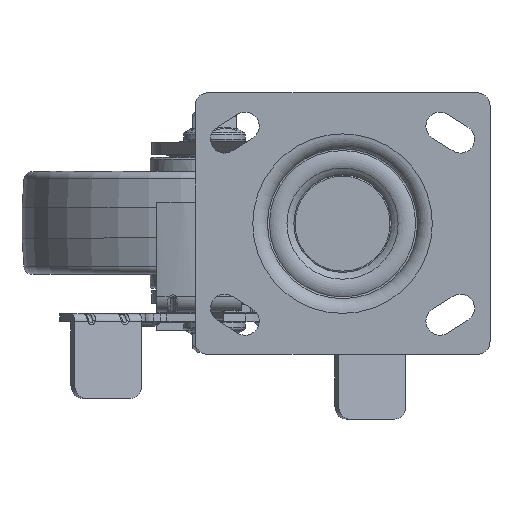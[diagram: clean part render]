
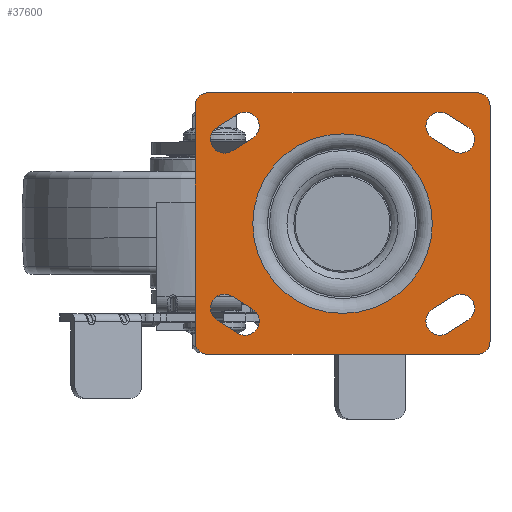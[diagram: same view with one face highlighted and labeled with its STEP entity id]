
A CAD part, top view. The second image highlights one B-rep face of the part: STEP entity #37600.
In plain terms, the highlighted planar face has unit normal (0, 0, 1).
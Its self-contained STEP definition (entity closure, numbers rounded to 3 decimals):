
#36343=CARTESIAN_POINT('',(-35.085,-33.336,0.));
#36344=VERTEX_POINT('',#36343);
#36351=CARTESIAN_POINT('',(-43.085,-28.336,0.));
#36352=VERTEX_POINT('',#36351);
#36353=CARTESIAN_POINT('',(-43.085,-28.336,0.));
#36354=DIRECTION('',(0.848,-0.53,0.));
#36355=VECTOR('',#36354,9.434);
#36356=LINE('',#36353,#36355);
#36357=EDGE_CURVE('',#36352,#36344,#36356,.T.);
#36383=CARTESIAN_POINT('',(-48.915,-37.664,0.));
#36384=VERTEX_POINT('',#36383);
#36385=CARTESIAN_POINT('',(-46.,-33.,0.));
#36386=DIRECTION('',(0.0,0.0,-1.0));
#36387=DIRECTION('',(-1.0,0.0,0.0));
#36388=AXIS2_PLACEMENT_3D('',#36385,#36386,#36387);
#36389=CIRCLE('',#36388,5.5);
#36390=EDGE_CURVE('',#36384,#36352,#36389,.T.);
#36415=CARTESIAN_POINT('',(-40.915,-42.664,0.));
#36416=VERTEX_POINT('',#36415);
#36417=CARTESIAN_POINT('',(-40.915,-42.664,0.));
#36418=DIRECTION('',(-0.848,0.53,0.0));
#36419=VECTOR('',#36418,9.434);
#36420=LINE('',#36417,#36419);
#36421=EDGE_CURVE('',#36416,#36384,#36420,.T.);
#36445=CARTESIAN_POINT('',(-38.,-38.,0.));
#36446=DIRECTION('',(0.0,0.0,-1.0));
#36447=DIRECTION('',(-1.0,0.0,0.0));
#36448=AXIS2_PLACEMENT_3D('',#36445,#36446,#36447);
#36449=CIRCLE('',#36448,5.5);
#36450=EDGE_CURVE('',#36344,#36416,#36449,.T.);
#36472=CARTESIAN_POINT('',(-57.5,46.,0.));
#36473=VERTEX_POINT('',#36472);
#36480=CARTESIAN_POINT('',(-52.5,51.,0.));
#36481=VERTEX_POINT('',#36480);
#36482=CARTESIAN_POINT('',(-52.5,46.,0.));
#36483=DIRECTION('',(0.0,0.0,1.0));
#36484=DIRECTION('',(-1.0,0.0,0.0));
#36485=AXIS2_PLACEMENT_3D('',#36482,#36483,#36484);
#36486=CIRCLE('',#36485,5.0);
#36487=EDGE_CURVE('',#36481,#36473,#36486,.T.);
#36512=CARTESIAN_POINT('',(52.5,51.,0.));
#36513=VERTEX_POINT('',#36512);
#36514=CARTESIAN_POINT('',(52.5,51.,0.));
#36515=DIRECTION('',(-1.0,0.0,0.0));
#36516=VECTOR('',#36515,105.0);
#36517=LINE('',#36514,#36516);
#36518=EDGE_CURVE('',#36513,#36481,#36517,.T.);
#36544=CARTESIAN_POINT('',(57.5,46.,0.));
#36545=VERTEX_POINT('',#36544);
#36546=CARTESIAN_POINT('',(52.5,46.,0.));
#36547=DIRECTION('',(0.0,0.0,1.0));
#36548=DIRECTION('',(-1.0,0.0,0.0));
#36549=AXIS2_PLACEMENT_3D('',#36546,#36547,#36548);
#36550=CIRCLE('',#36549,5.0);
#36551=EDGE_CURVE('',#36545,#36513,#36550,.T.);
#36576=CARTESIAN_POINT('',(57.5,-46.,0.));
#36577=VERTEX_POINT('',#36576);
#36578=CARTESIAN_POINT('',(57.5,-46.,0.));
#36579=DIRECTION('',(0.0,1.0,0.0));
#36580=VECTOR('',#36579,92.);
#36581=LINE('',#36578,#36580);
#36582=EDGE_CURVE('',#36577,#36545,#36581,.T.);
#36608=CARTESIAN_POINT('',(52.5,-51.,0.));
#36609=VERTEX_POINT('',#36608);
#36610=CARTESIAN_POINT('',(52.5,-46.,0.));
#36611=DIRECTION('',(0.0,0.0,1.0));
#36612=DIRECTION('',(-1.0,0.0,0.0));
#36613=AXIS2_PLACEMENT_3D('',#36610,#36611,#36612);
#36614=CIRCLE('',#36613,5.0);
#36615=EDGE_CURVE('',#36609,#36577,#36614,.T.);
#36640=CARTESIAN_POINT('',(-52.5,-51.,0.));
#36641=VERTEX_POINT('',#36640);
#36642=CARTESIAN_POINT('',(-52.5,-51.,0.));
#36643=DIRECTION('',(1.0,0.0,0.0));
#36644=VECTOR('',#36643,105.);
#36645=LINE('',#36642,#36644);
#36646=EDGE_CURVE('',#36641,#36609,#36645,.T.);
#36672=CARTESIAN_POINT('',(-57.5,-46.,0.));
#36673=VERTEX_POINT('',#36672);
#36674=CARTESIAN_POINT('',(-52.5,-46.,0.));
#36675=DIRECTION('',(0.0,0.0,1.0));
#36676=DIRECTION('',(-1.0,0.0,0.0));
#36677=AXIS2_PLACEMENT_3D('',#36674,#36675,#36676);
#36678=CIRCLE('',#36677,5.0);
#36679=EDGE_CURVE('',#36673,#36641,#36678,.T.);
#36702=CARTESIAN_POINT('',(-57.5,46.,0.));
#36703=DIRECTION('',(0.0,-1.0,0.0));
#36704=VECTOR('',#36703,92.);
#36705=LINE('',#36702,#36704);
#36706=EDGE_CURVE('',#36473,#36673,#36705,.T.);
#36727=CARTESIAN_POINT('',(35.085,33.336,0.));
#36728=VERTEX_POINT('',#36727);
#36735=CARTESIAN_POINT('',(43.085,28.336,0.));
#36736=VERTEX_POINT('',#36735);
#36737=CARTESIAN_POINT('',(43.085,28.336,0.));
#36738=DIRECTION('',(-0.848,0.53,0.0));
#36739=VECTOR('',#36738,9.434);
#36740=LINE('',#36737,#36739);
#36741=EDGE_CURVE('',#36736,#36728,#36740,.T.);
#36767=CARTESIAN_POINT('',(48.915,37.664,0.));
#36768=VERTEX_POINT('',#36767);
#36769=CARTESIAN_POINT('',(46.,33.,0.));
#36770=DIRECTION('',(0.0,0.0,-1.0));
#36771=DIRECTION('',(-1.0,0.0,0.0));
#36772=AXIS2_PLACEMENT_3D('',#36769,#36770,#36771);
#36773=CIRCLE('',#36772,5.5);
#36774=EDGE_CURVE('',#36768,#36736,#36773,.T.);
#36799=CARTESIAN_POINT('',(40.915,42.664,0.));
#36800=VERTEX_POINT('',#36799);
#36801=CARTESIAN_POINT('',(40.915,42.664,0.));
#36802=DIRECTION('',(0.848,-0.53,0.0));
#36803=VECTOR('',#36802,9.434);
#36804=LINE('',#36801,#36803);
#36805=EDGE_CURVE('',#36800,#36768,#36804,.T.);
#36829=CARTESIAN_POINT('',(38.,38.,0.));
#36830=DIRECTION('',(0.0,0.0,-1.0));
#36831=DIRECTION('',(-1.0,0.0,0.0));
#36832=AXIS2_PLACEMENT_3D('',#36829,#36830,#36831);
#36833=CIRCLE('',#36832,5.5);
#36834=EDGE_CURVE('',#36728,#36800,#36833,.T.);
#36855=CARTESIAN_POINT('',(40.915,-42.664,0.));
#36856=VERTEX_POINT('',#36855);
#36863=CARTESIAN_POINT('',(48.915,-37.664,0.));
#36864=VERTEX_POINT('',#36863);
#36865=CARTESIAN_POINT('',(48.915,-37.664,0.));
#36866=DIRECTION('',(-0.848,-0.53,0.0));
#36867=VECTOR('',#36866,9.434);
#36868=LINE('',#36865,#36867);
#36869=EDGE_CURVE('',#36864,#36856,#36868,.T.);
#36895=CARTESIAN_POINT('',(43.085,-28.336,0.));
#36896=VERTEX_POINT('',#36895);
#36897=CARTESIAN_POINT('',(46.,-33.,0.));
#36898=DIRECTION('',(0.0,0.0,-1.0));
#36899=DIRECTION('',(-1.0,0.0,0.0));
#36900=AXIS2_PLACEMENT_3D('',#36897,#36898,#36899);
#36901=CIRCLE('',#36900,5.5);
#36902=EDGE_CURVE('',#36896,#36864,#36901,.T.);
#36927=CARTESIAN_POINT('',(35.085,-33.336,0.));
#36928=VERTEX_POINT('',#36927);
#36929=CARTESIAN_POINT('',(35.085,-33.336,0.));
#36930=DIRECTION('',(0.848,0.53,0.0));
#36931=VECTOR('',#36930,9.434);
#36932=LINE('',#36929,#36931);
#36933=EDGE_CURVE('',#36928,#36896,#36932,.T.);
#36957=CARTESIAN_POINT('',(38.,-38.,0.));
#36958=DIRECTION('',(0.0,0.0,-1.0));
#36959=DIRECTION('',(-1.0,0.0,0.0));
#36960=AXIS2_PLACEMENT_3D('',#36957,#36958,#36959);
#36961=CIRCLE('',#36960,5.5);
#36962=EDGE_CURVE('',#36856,#36928,#36961,.T.);
#37048=CARTESIAN_POINT('',(-40.915,42.664,0.));
#37049=VERTEX_POINT('',#37048);
#37056=CARTESIAN_POINT('',(-48.915,37.664,0.));
#37057=VERTEX_POINT('',#37056);
#37058=CARTESIAN_POINT('',(-48.915,37.664,0.));
#37059=DIRECTION('',(0.848,0.53,0.0));
#37060=VECTOR('',#37059,9.434);
#37061=LINE('',#37058,#37060);
#37062=EDGE_CURVE('',#37057,#37049,#37061,.T.);
#37088=CARTESIAN_POINT('',(-43.085,28.336,0.));
#37089=VERTEX_POINT('',#37088);
#37090=CARTESIAN_POINT('',(-46.,33.,0.));
#37091=DIRECTION('',(0.0,0.0,-1.0));
#37092=DIRECTION('',(-1.0,0.0,0.0));
#37093=AXIS2_PLACEMENT_3D('',#37090,#37091,#37092);
#37094=CIRCLE('',#37093,5.5);
#37095=EDGE_CURVE('',#37089,#37057,#37094,.T.);
#37120=CARTESIAN_POINT('',(-35.085,33.336,0.));
#37121=VERTEX_POINT('',#37120);
#37122=CARTESIAN_POINT('',(-35.085,33.336,0.));
#37123=DIRECTION('',(-0.848,-0.53,0.0));
#37124=VECTOR('',#37123,9.434);
#37125=LINE('',#37122,#37124);
#37126=EDGE_CURVE('',#37121,#37089,#37125,.T.);
#37150=CARTESIAN_POINT('',(-38.,38.,0.));
#37151=DIRECTION('',(0.0,0.0,-1.0));
#37152=DIRECTION('',(-1.0,0.0,0.0));
#37153=AXIS2_PLACEMENT_3D('',#37150,#37151,#37152);
#37154=CIRCLE('',#37153,5.5);
#37155=EDGE_CURVE('',#37049,#37121,#37154,.T.);
#37543=CARTESIAN_POINT('',(-35.,0.,0.));
#37544=VERTEX_POINT('',#37543);
#37545=CARTESIAN_POINT('',(0.,0.,0.));
#37546=DIRECTION('',(0.0,0.0,-1.0));
#37547=DIRECTION('',(-1.0,0.0,0.0));
#37548=AXIS2_PLACEMENT_3D('',#37545,#37546,#37547);
#37549=CIRCLE('',#37548,35.);
#37550=EDGE_CURVE('',#37544,#37544,#37549,.T.);
#37558=CARTESIAN_POINT('',(-67.5,0.,0.));
#37559=DIRECTION('',(0.0,0.0,1.0));
#37560=DIRECTION('',(1.0,0.0,0.0));
#37561=AXIS2_PLACEMENT_3D('',#37558,#37559,#37560);
#37562=PLANE('',#37561);
#37563=ORIENTED_EDGE('',*,*,#36615,.T.);
#37564=ORIENTED_EDGE('',*,*,#36582,.T.);
#37565=ORIENTED_EDGE('',*,*,#36551,.T.);
#37566=ORIENTED_EDGE('',*,*,#36518,.T.);
#37567=ORIENTED_EDGE('',*,*,#36487,.T.);
#37568=ORIENTED_EDGE('',*,*,#36706,.T.);
#37569=ORIENTED_EDGE('',*,*,#36679,.T.);
#37570=ORIENTED_EDGE('',*,*,#36646,.T.);
#37571=EDGE_LOOP('',(#37563,#37564,#37565,#37566,#37567,#37568,#37569,#37570));
#37572=FACE_OUTER_BOUND('',#37571,.T.);
#37573=ORIENTED_EDGE('',*,*,#36421,.T.);
#37574=ORIENTED_EDGE('',*,*,#36390,.T.);
#37575=ORIENTED_EDGE('',*,*,#36357,.T.);
#37576=ORIENTED_EDGE('',*,*,#36450,.T.);
#37577=EDGE_LOOP('',(#37573,#37574,#37575,#37576));
#37578=FACE_BOUND('',#37577,.T.);
#37579=ORIENTED_EDGE('',*,*,#36805,.T.);
#37580=ORIENTED_EDGE('',*,*,#36774,.T.);
#37581=ORIENTED_EDGE('',*,*,#36741,.T.);
#37582=ORIENTED_EDGE('',*,*,#36834,.T.);
#37583=EDGE_LOOP('',(#37579,#37580,#37581,#37582));
#37584=FACE_BOUND('',#37583,.T.);
#37585=ORIENTED_EDGE('',*,*,#36933,.T.);
#37586=ORIENTED_EDGE('',*,*,#36902,.T.);
#37587=ORIENTED_EDGE('',*,*,#36869,.T.);
#37588=ORIENTED_EDGE('',*,*,#36962,.T.);
#37589=EDGE_LOOP('',(#37585,#37586,#37587,#37588));
#37590=FACE_BOUND('',#37589,.T.);
#37591=ORIENTED_EDGE('',*,*,#37126,.T.);
#37592=ORIENTED_EDGE('',*,*,#37095,.T.);
#37593=ORIENTED_EDGE('',*,*,#37062,.T.);
#37594=ORIENTED_EDGE('',*,*,#37155,.T.);
#37595=EDGE_LOOP('',(#37591,#37592,#37593,#37594));
#37596=FACE_BOUND('',#37595,.T.);
#37597=ORIENTED_EDGE('',*,*,#37550,.T.);
#37598=EDGE_LOOP('',(#37597));
#37599=FACE_BOUND('',#37598,.T.);
#37600=ADVANCED_FACE('',(#37572,#37578,#37584,#37590,#37596,#37599),#37562,.T.);
